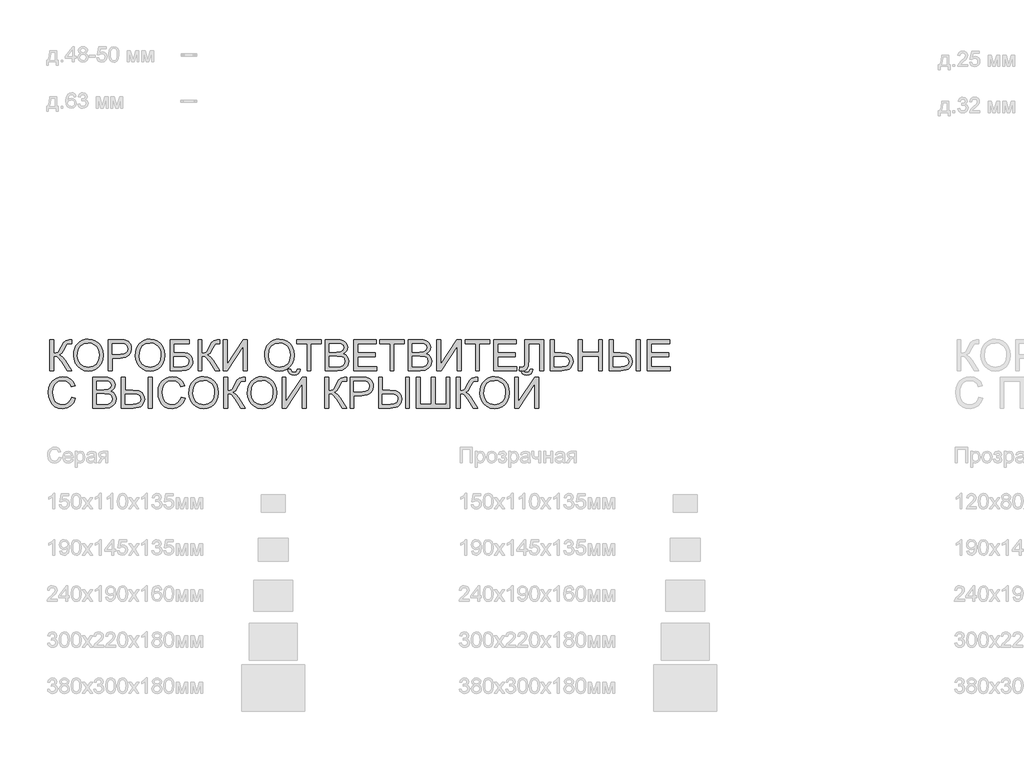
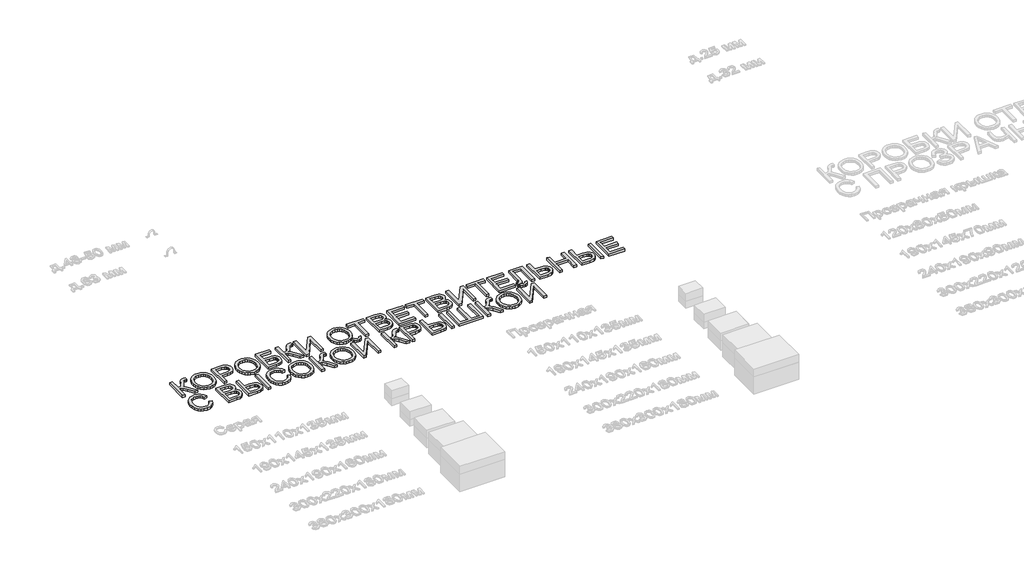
# One storey, part 20 of 98: 1 proxy.
"""IFC4 building model written with IfcOpenShell, lengths in millimetres."""

from ifc_helpers import new_model, si_unit, origin, origin_with_axes, place, context, project, spatial, polyline, outline, extrude, element, save

model = new_model("IFC4")

# Units and contexts
model_context = context("Model", 3, world=origin())
ifc_project = project(units=[si_unit("LENGTHUNIT", "METRE", prefix="MILLI")], contexts=[model_context])

# Site, building, storey
site = spatial("IfcSite", under=ifc_project)
building = spatial("IfcBuilding", under=site)
storey = spatial("IfcBuildingStorey", under=building, Name="Этаж 01", Elevation=0.0)

# Proxy
placement = place(None, origin())
element("IfcBuildingElementProxy", 1, Name="200", ObjectType="200", at=placement, inside=storey, context=model_context, shape_type="SweptSolid", body=[
    extrude(outline(polyline([(-25.4161836, -41236.6247283), (-0.3021061, -41236.6247283), (-0.3021061, -41324.5239997), (16.7001735, -41322.8623994), (27.7795529, -41317.8775983), (36.7374795, -41306.148294), (47.3754005, -41284.253184), (61.232289, -41256.171525), (76.9285874, -41242.2655856), (99.3693891, -41236.6247283), (115.8505025, -41236.9190339), (115.8505025, -41262.0331114), (110.3077471, -41261.8859586), (104.7649917, -41261.7388059), (93.262548, -41263.247122), (85.1446187, -41267.7720706), (70.2331351, -41293.6219121), (52.452172, -41325.1126109), (35.1126673, -41335.5114086), (54.5000485, -41346.8666995), (73.6176495, -41370.5337746), (115.8505025, -41437.5373486), (86.7142485, -41437.5373486), (51.0051695, -41380.9325723), (25.8665665, -41351.3793853), (14.2598896, -41345.3645147), (-0.3021061, -41343.3595578), (-0.3021061, -41437.5373486), (-25.4161836, -41437.5373486), (-25.4161836, -41236.6247283)])), origin_with_axes(), (0.0, 0.0, 1.0), 20.0),
    extrude(outline(polyline([(128.4075413, -41339.7297888), (130.0814044, -41316.1638814), (135.1029936, -41295.3019065), (143.472309, -41277.1438644), (155.1893505, -41261.6897549), (169.5520768, -41249.3503797), (185.8584462, -41240.5365402), (204.1084588, -41235.2482365), (224.3021147, -41233.4854686), (250.6547283, -41236.7964066), (274.2850151, -41246.7292204), (293.9053882, -41262.5849344), (308.2282605, -41283.6645728), (316.983852, -41308.9503286), (319.9023825, -41337.424395), (316.8305679, -41366.2786061), (307.6151239, -41391.9199812), (292.764954, -41413.0364077), (272.7889617, -41428.3157733), (249.3610099, -41437.5863995), (224.1549619, -41440.6766083), (197.3976781, -41437.2614371), (173.6325012, -41427.0159236), (154.0611791, -41410.865904), (139.8854595, -41389.7372147), (131.2770209, -41365.4263462), (128.4075413, -41339.7297888)]), holes=[polyline([(153.5216188, -41339.9750435), (158.5432081, -41371.4044286), (173.6079758, -41395.3535465), (196.2511126, -41410.5102847), (224.0078091, -41415.5625308), (252.1691758, -41410.4612338), (274.8491008, -41395.1573428), (283.5725026, -41383.8848253), (289.8035039, -41370.4724609), (294.788305, -41337.2281913), (292.6545894, -41314.995856), (286.2534427, -41295.7801531), (275.7504117, -41280.0654606), (261.3110434, -41268.3361563), (243.8918309, -41261.0336987), (224.4492675, -41258.5995462), (197.4344663, -41263.2900416), (174.4663671, -41277.3615279), (165.3030397, -41288.3106158), (158.7578059, -41302.3958977), (153.5216188, -41339.9750435)])]), origin_with_axes(), (0.0, 0.0, 1.0), 20.0),
    extrude(outline(polyline([(354.4342391, -41437.5373486), (354.4342391, -41236.6247283), (428.893555, -41236.6247283), (458.9127258, -41238.5377147), (483.3155648, -41247.9309683), (492.1876522, -41256.2573641), (499.1344906, -41267.3551376), (503.6226509, -41280.4456053), (505.1187044, -41294.7500836), (501.0781338, -41318.4294213), (488.956422, -41338.160159), (479.2489359, -41345.9286004), (466.2887598, -41351.4774872), (430.6103376, -41355.9165966), (379.5483167, -41355.9165966), (379.5483167, -41437.5373486), (354.4342391, -41437.5373486)]), holes=[polyline([(379.5483167, -41330.8025191), (432.0818656, -41330.8025191), (454.350989, -41328.4971252), (469.0662688, -41321.5809437), (477.2700373, -41310.4831702), (480.0046268, -41295.6330003), (478.3920774, -41284.3512858), (473.5544292, -41274.8354049), (466.092556, -41267.6739687), (456.6073319, -41263.4555885), (431.4932544, -41261.7388059), (379.5483167, -41261.7388059), (379.5483167, -41330.8025191)])]), origin_with_axes(), (0.0, 0.0, 1.0), 20.0),
    extrude(outline(polyline([(530.2327819, -41339.7297888), (531.906645, -41316.1638814), (536.9282342, -41295.3019065), (545.2975496, -41277.1438644), (557.0145911, -41261.6897549), (571.3773174, -41249.3503797), (587.6836868, -41240.5365402), (605.9336994, -41235.2482365), (626.1273553, -41233.4854686), (652.4799689, -41236.7964066), (676.1102557, -41246.7292204), (695.7306288, -41262.5849344), (710.0535011, -41283.6645728), (718.8090926, -41308.9503286), (721.7276231, -41337.424395), (718.6558085, -41366.2786061), (709.4403645, -41391.9199812), (694.5901946, -41413.0364077), (674.6142023, -41428.3157733), (651.1862505, -41437.5863995), (625.9802025, -41440.6766083), (599.2229187, -41437.2614371), (575.4577418, -41427.0159236), (555.8864197, -41410.865904), (541.7107001, -41389.7372147), (533.1022615, -41365.4263462), (530.2327819, -41339.7297888)]), holes=[polyline([(555.3468594, -41339.9750435), (560.3684487, -41371.4044286), (575.4332164, -41395.3535465), (598.0763532, -41410.5102847), (625.8330497, -41415.5625308), (653.9944164, -41410.4612338), (676.6743414, -41395.1573428), (685.3977432, -41383.8848253), (691.6287445, -41370.4724609), (696.6135456, -41337.2281913), (694.47983, -41314.995856), (688.0786833, -41295.7801531), (677.5756523, -41280.0654606), (663.136284, -41268.3361563), (645.7170715, -41261.0336987), (626.2745081, -41258.5995462), (599.2597069, -41263.2900416), (576.2916077, -41277.3615279), (567.1282803, -41288.3106158), (560.5830465, -41302.3958977), (555.3468594, -41339.9750435)])]), origin_with_axes(), (0.0, 0.0, 1.0), 20.0),
    extrude(outline(polyline([(756.2594797, -41236.6247283), (881.8298674, -41236.6247283), (881.8298674, -41261.7388059), (781.3735573, -41261.7388059), (781.3735573, -41321.38474), (828.4134017, -41321.38474), (851.7984339, -41322.6600643), (869.8614398, -41326.486037), (883.7305911, -41333.8559396), (894.534059, -41345.7630535), (901.4870287, -41361.09147), (903.8046853, -41378.7252803), (902.1553476, -41393.5325306), (897.2073348, -41407.3464995), (888.9851722, -41419.4436858), (877.5133853, -41429.1005882), (859.8182614, -41435.4281585), (832.9260875, -41437.5373486), (756.2594797, -41437.5373486), (756.2594797, -41236.6247283)]), holes=[polyline([(781.3735573, -41412.4232711), (835.1824304, -41412.4232711), (854.2019296, -41410.3508692), (867.8013007, -41404.1336635), (875.968281, -41393.7716539), (878.6906077, -41379.2648406), (877.1332406, -41368.4613727), (872.4611393, -41359.5954166), (865.0115289, -41353.0225916), (855.1216346, -41349.098517), (817.27884, -41346.4988175), (781.3735573, -41346.4988175), (781.3735573, -41412.4232711)])]), origin_with_axes(), (0.0, 0.0, 1.0), 20.0),
    extrude(outline(polyline([(938.3365419, -41236.6247283), (963.4506194, -41236.6247283), (963.4506194, -41324.5239997), (980.452899, -41322.8623994), (991.5322784, -41317.8775983), (1000.490205, -41306.148294), (1011.128126, -41284.253184), (1024.9850145, -41256.171525), (1040.6813129, -41242.2655856), (1063.1221146, -41236.6247283), (1079.603228, -41236.9190339), (1079.603228, -41262.0331114), (1074.0604726, -41261.8859586), (1068.5177172, -41261.7388059), (1057.0152735, -41263.247122), (1048.8973442, -41267.7720706), (1033.9858606, -41293.6219121), (1016.2048975, -41325.1126109), (998.8653928, -41335.5114086), (1018.252774, -41346.8666995), (1037.370375, -41370.5337746), (1079.603228, -41437.5373486), (1050.466974, -41437.5373486), (1014.757895, -41380.9325723), (989.619292, -41351.3793853), (978.0126151, -41345.3645147), (963.4506194, -41343.3595578), (963.4506194, -41437.5373486), (938.3365419, -41437.5373486), (938.3365419, -41236.6247283)])), origin_with_axes(), (0.0, 0.0, 1.0), 20.0),
    extrude(outline(polyline([(1101.5780459, -41236.6247283), (1126.6921234, -41236.6247283), (1126.6921234, -41395.745954), (1231.8573231, -41236.6247283), (1258.5410305, -41236.6247283), (1258.5410305, -41437.5373486), (1233.4269529, -41437.5373486), (1233.4269529, -41278.8575814), (1128.5070079, -41437.5373486), (1101.5780459, -41437.5373486), (1101.5780459, -41236.6247283)])), origin_with_axes(), (0.0, 0.0, 1.0), 20.0),
    extrude(outline(polyline([(1371.5543794, -41339.7297888), (1373.2282425, -41316.1638814), (1378.2498317, -41295.3019065), (1386.6191471, -41277.1438644), (1398.3361886, -41261.6897549), (1412.6989149, -41249.3503797), (1429.0052843, -41240.5365402), (1447.255297, -41235.2482365), (1467.4489528, -41233.4854686), (1493.8015664, -41236.7964066), (1517.4318532, -41246.7292204), (1537.0522263, -41262.5849344), (1551.3750986, -41283.6645728), (1560.1306901, -41308.9503286), (1563.0492206, -41337.424395), (1559.977406, -41366.2786061), (1550.761962, -41391.9199812), (1535.9117921, -41413.0364077), (1515.9357998, -41428.3157733), (1492.507848, -41437.5863995), (1467.3018, -41440.6766083), (1440.5445162, -41437.2614371), (1416.7793393, -41427.0159236), (1397.2080172, -41410.865904), (1383.0322976, -41389.7372147), (1374.423859, -41365.4263462), (1371.5543794, -41339.7297888)]), holes=[polyline([(1396.6684569, -41339.9750435), (1401.6900462, -41371.4044286), (1416.7548139, -41395.3535465), (1439.3979507, -41410.5102847), (1467.1546472, -41415.5625308), (1495.3160139, -41410.4612338), (1517.9959389, -41395.1573428), (1526.7193408, -41383.8848253), (1532.950342, -41370.4724609), (1537.9351431, -41337.2281913), (1535.8014275, -41314.995856), (1529.4002808, -41295.7801531), (1518.8972498, -41280.0654606), (1504.4578815, -41268.3361563), (1487.038669, -41261.0336987), (1467.5961056, -41258.5995462), (1440.5813044, -41263.2900416), (1417.6132052, -41277.3615279), (1408.4498778, -41288.3106158), (1401.904644, -41302.3958977), (1396.6684569, -41339.9750435)])]), origin_with_axes(), (0.0, 0.0, 1.0), 20.0),
    extrude(outline(polyline([(1647.8092323, -41437.5373486), (1647.8092323, -41261.7388059), (1581.8847788, -41261.7388059), (1581.8847788, -41236.6247283), (1738.8477634, -41236.6247283), (1738.8477634, -41261.7388059), (1672.9233098, -41261.7388059), (1672.9233098, -41437.5373486), (1647.8092323, -41437.5373486)])), origin_with_axes(), (0.0, 0.0, 1.0), 20.0),
    extrude(outline(polyline([(1767.1011006, -41437.5373486), (1767.1011006, -41236.6247283), (1843.7677084, -41236.6247283), (1864.8534781, -41238.1023877), (1881.3161974, -41242.5353657), (1893.9345498, -41250.034027), (1903.487219, -41260.7087363), (1909.5020896, -41273.265775), (1911.5070464, -41286.411425), (1909.8209206, -41298.5086113), (1904.7625432, -41309.8822963), (1896.2951259, -41319.8335043), (1884.3818807, -41327.6632594), (1898.6127825, -41335.0944757), (1909.1280762, -41346.4007157), (1915.6211934, -41360.8339526), (1917.7855658, -41377.6461598), (1911.8749284, -41404.6486982), (1897.233225, -41423.8766639), (1875.3810345, -41434.0792579), (1843.1790972, -41437.5373486), (1767.1011006, -41437.5373486)]), holes=[polyline([(1792.2151781, -41412.4232711), (1843.7186575, -41412.4232711), (1862.3580119, -41411.4422524), (1878.1278868, -41405.9730734), (1888.5757354, -41394.8139862), (1892.6714883, -41377.8914145), (1887.8644969, -41358.3691433), (1881.5675834, -41351.3119403), (1872.2908258, -41346.7195467), (1841.2661108, -41343.3595578), (1792.2151781, -41343.3595578), (1792.2151781, -41412.4232711)]), polyline([(1792.2151781, -41318.2454803), (1838.0778002, -41318.2454803), (1864.8596095, -41316.0872393), (1880.9728408, -41306.7920875), (1886.3929689, -41290.4336015), (1881.3407228, -41274.05059), (1866.8706977, -41264.3630308), (1834.595184, -41261.7388059), (1792.2151781, -41261.7388059), (1792.2151781, -41318.2454803)])]), origin_with_axes(), (0.0, 0.0, 1.0), 20.0),
    extrude(outline(polyline([(1952.3174224, -41437.5373486), (1952.3174224, -41236.6247283), (2096.7233683, -41236.6247283), (2096.7233683, -41261.7388059), (1977.4315, -41261.7388059), (1977.4315, -41321.38474), (2090.4448489, -41321.38474), (2090.4448489, -41346.4988175), (1977.4315, -41346.4988175), (1977.4315, -41412.4232711), (2099.862628, -41412.4232711), (2099.862628, -41437.5373486), (1952.3174224, -41437.5373486)])), origin_with_axes(), (0.0, 0.0, 1.0), 20.0),
    extrude(outline(polyline([(2187.7618994, -41437.5373486), (2187.7618994, -41261.7388059), (2121.8374458, -41261.7388059), (2121.8374458, -41236.6247283), (2278.8004304, -41236.6247283), (2278.8004304, -41261.7388059), (2212.8759769, -41261.7388059), (2212.8759769, -41437.5373486), (2187.7618994, -41437.5373486)])), origin_with_axes(), (0.0, 0.0, 1.0), 20.0),
    extrude(outline(polyline([(2307.0537677, -41437.5373486), (2307.0537677, -41236.6247283), (2383.7203755, -41236.6247283), (2404.8061451, -41238.1023877), (2421.2688644, -41242.5353657), (2433.8872169, -41250.034027), (2443.439886, -41260.7087363), (2449.4547566, -41273.265775), (2451.4597135, -41286.411425), (2449.7735877, -41298.5086113), (2444.7152103, -41309.8822963), (2436.247793, -41319.8335043), (2424.3345477, -41327.6632594), (2438.5654496, -41335.0944757), (2449.0807433, -41346.4007157), (2455.5738605, -41360.8339526), (2457.7382329, -41377.6461598), (2451.8275955, -41404.6486982), (2437.1858921, -41423.8766639), (2415.3337016, -41434.0792579), (2383.1317643, -41437.5373486), (2307.0537677, -41437.5373486)]), holes=[polyline([(2332.1678452, -41412.4232711), (2383.6713245, -41412.4232711), (2402.3106789, -41411.4422524), (2418.0805538, -41405.9730734), (2428.5284025, -41394.8139862), (2432.6241553, -41377.8914145), (2427.8171639, -41358.3691433), (2421.5202505, -41351.3119403), (2412.2434928, -41346.7195467), (2381.2187779, -41343.3595578), (2332.1678452, -41343.3595578), (2332.1678452, -41412.4232711)]), polyline([(2332.1678452, -41318.2454803), (2378.0304673, -41318.2454803), (2404.8122765, -41316.0872393), (2420.9255079, -41306.7920875), (2426.345636, -41290.4336015), (2421.2933899, -41274.05059), (2406.8233648, -41264.3630308), (2374.547851, -41261.7388059), (2332.1678452, -41261.7388059), (2332.1678452, -41318.2454803)])]), origin_with_axes(), (0.0, 0.0, 1.0), 20.0),
    extrude(outline(polyline([(2492.2700895, -41236.6247283), (2517.384167, -41236.6247283), (2517.384167, -41395.745954), (2622.5493667, -41236.6247283), (2649.2330741, -41236.6247283), (2649.2330741, -41437.5373486), (2624.1189966, -41437.5373486), (2624.1189966, -41278.8575814), (2519.1990515, -41437.5373486), (2492.2700895, -41437.5373486), (2492.2700895, -41236.6247283)])), origin_with_axes(), (0.0, 0.0, 1.0), 20.0),
    extrude(outline(polyline([(2743.4108649, -41437.5373486), (2743.4108649, -41261.7388059), (2677.4864113, -41261.7388059), (2677.4864113, -41236.6247283), (2834.4493959, -41236.6247283), (2834.4493959, -41261.7388059), (2768.5249424, -41261.7388059), (2768.5249424, -41437.5373486), (2743.4108649, -41437.5373486)])), origin_with_axes(), (0.0, 0.0, 1.0), 20.0),
    extrude(outline(polyline([(2862.7027332, -41437.5373486), (2862.7027332, -41236.6247283), (3007.108679, -41236.6247283), (3007.108679, -41261.7388059), (2887.8168107, -41261.7388059), (2887.8168107, -41321.38474), (3000.8301596, -41321.38474), (3000.8301596, -41346.4988175), (2887.8168107, -41346.4988175), (2887.8168107, -41412.4232711), (3010.2479387, -41412.4232711), (3010.2479387, -41437.5373486), (2862.7027332, -41437.5373486)])), origin_with_axes(), (0.0, 0.0, 1.0), 20.0),
    extrude(outline(polyline([(3063.6153535, -41236.6247283), (3186.0464815, -41236.6247283), (3186.0464815, -41437.5373486), (3160.9324039, -41437.5373486), (3160.9324039, -41261.7388059), (3088.729431, -41261.7388059), (3088.729431, -41364.2552552), (3085.8109005, -41409.9952499), (3081.2920833, -41422.9201707), (3073.5726928, -41432.6077299), (3063.0022168, -41438.6593887), (3049.9301433, -41440.6766083), (3029.0834969, -41437.5373486), (3032.2227566, -41412.4232711), (3044.2402351, -41415.5625308), (3052.7321778, -41413.876405), (3058.7838366, -41408.8180275), (3062.4074743, -41397.5056562), (3063.6153535, -41377.0575486), (3063.6153535, -41236.6247283)])), origin_with_axes(), (0.0, 0.0, 1.0), 20.0),
    extrude(outline(polyline([(3229.9961172, -41236.6247283), (3255.1101947, -41236.6247283), (3255.1101947, -41321.38474), (3302.1500391, -41321.38474), (3330.5321351, -41323.3529087), (3349.8520712, -41329.2574147), (3362.5562628, -41338.5525664), (3371.091125, -41350.6926723), (3375.9287733, -41364.4575903), (3377.5413227, -41378.6271785), (3373.666299, -41400.6755727), (3362.041228, -41419.8299619), (3352.6234489, -41427.5769436), (3339.8702064, -41433.1105019), (3304.3573311, -41437.5373486), (3229.9961172, -41437.5373486), (3229.9961172, -41236.6247283)]), holes=[polyline([(3255.1101947, -41412.4232711), (3304.3082802, -41412.4232711), (3329.0544757, -41409.9400676), (3343.3528226, -41402.4904572), (3350.1586395, -41391.5337051), (3352.4272452, -41378.5290766), (3350.7840389, -41367.9953888), (3345.8544202, -41359.1539582), (3338.1840806, -41352.5750018), (3328.3187117, -41348.8287368), (3291.1626302, -41346.4988175), (3255.1101947, -41346.4988175), (3255.1101947, -41412.4232711)])]), origin_with_axes(), (0.0, 0.0, 1.0), 20.0),
    extrude(outline(polyline([(3412.0731793, -41437.5373486), (3412.0731793, -41236.6247283), (3437.1872568, -41236.6247283), (3437.1872568, -41318.2454803), (3543.9220864, -41318.2454803), (3543.9220864, -41236.6247283), (3569.0361639, -41236.6247283), (3569.0361639, -41437.5373486), (3543.9220864, -41437.5373486), (3543.9220864, -41343.3595578), (3437.1872568, -41343.3595578), (3437.1872568, -41437.5373486), (3412.0731793, -41437.5373486)])), origin_with_axes(), (0.0, 0.0, 1.0), 20.0),
    extrude(outline(polyline([(3788.7843424, -41236.6247283), (3813.8984199, -41236.6247283), (3813.8984199, -41437.5373486), (3788.7843424, -41437.5373486), (3788.7843424, -41236.6247283)])), origin_with_axes(), (0.0, 0.0, 1.0), 20.0),
    extrude(outline(polyline([(3612.9857996, -41236.6247283), (3638.0998771, -41236.6247283), (3638.0998771, -41321.38474), (3686.3659949, -41321.38474), (3725.6435293, -41325.7747985), (3739.2030465, -41331.2623716), (3748.7097304, -41338.9449739), (3759.9301312, -41357.6824302), (3763.6702648, -41378.7743313), (3759.7155334, -41400.8043314), (3747.851339, -41419.9035383), (3738.2450204, -41427.6183303), (3725.2449904, -41433.128896), (3689.0637962, -41437.5373486), (3612.9857996, -41437.5373486), (3612.9857996, -41236.6247283)]), holes=[polyline([(3638.0998771, -41412.4232711), (3688.8185415, -41412.4232711), (3711.3758392, -41410.4305769), (3726.759438, -41404.4524945), (3735.607, -41394.0843536), (3738.5561873, -41378.921484), (3736.7719596, -41367.9708633), (3731.4192766, -41358.9577544), (3723.2400336, -41352.3726667), (3712.9761259, -41348.7061095), (3675.2314332, -41346.4988175), (3638.0998771, -41346.4988175), (3638.0998771, -41412.4232711)])]), origin_with_axes(), (0.0, 0.0, 1.0), 20.0),
    extrude(outline(polyline([(3860.9873153, -41437.5373486), (3860.9873153, -41236.6247283), (4005.3932611, -41236.6247283), (4005.3932611, -41261.7388059), (3886.1013928, -41261.7388059), (3886.1013928, -41321.38474), (3999.1147417, -41321.38474), (3999.1147417, -41346.4988175), (3886.1013928, -41346.4988175), (3886.1013928, -41412.4232711), (4008.5325208, -41412.4232711), (4008.5325208, -41437.5373486), (3860.9873153, -41437.5373486)])), origin_with_axes(), (0.0, 0.0, 1.0), 20.0),
    extrude(outline(polyline([(115.8505025, -41610.0688263), (140.9645801, -41616.5435494), (129.3762972, -41645.8085621), (111.1906639, -41667.1886374), (87.3028597, -41680.2668424), (58.6080641, -41684.626244), (29.4779414, -41681.3275688), (6.3442953, -41671.4315431), (-11.3876169, -41655.2815235), (-24.3125376, -41633.2208665), (-32.2036064, -41607.2851859), (-34.8339627, -41579.5100952), (-31.8602499, -41550.2144257), (-22.9391115, -41524.9164072), (-8.5365314, -41504.4192487), (10.8815066, -41489.5261592), (33.9109195, -41480.457868), (59.1476243, -41477.4351043), (86.6835917, -41481.3469162), (109.4493558, -41493.0823518), (126.7336782, -41511.91791), (137.8253204, -41537.1300894), (112.7112428, -41543.1143032), (104.0047023, -41524.7999112), (92.1098511, -41512.2367411), (76.8795365, -41504.9710717), (58.1666057, -41502.5491818), (36.596458, -41505.2347204), (18.8768086, -41513.2913361), (5.4307217, -41525.8729003), (-3.3187384, -41542.1332845), (-8.1195985, -41560.5151216), (-9.7198852, -41579.4610443), (-7.8252929, -41602.6621355), (-2.1415161, -41622.7239669), (7.5460431, -41638.8801179), (21.4519826, -41650.3641675), (38.1231683, -41657.2251667), (56.1064665, -41659.5121665), (77.0696089, -41656.3974322), (94.5378723, -41647.0532296), (107.7264418, -41631.5776603), (115.8505025, -41610.0688263)])), origin_with_axes(), (0.0, 0.0, 1.0), 20.0),
    extrude(outline(polyline([(253.977929, -41681.4869843), (253.977929, -41480.574364), (330.6445368, -41480.574364), (351.7303065, -41482.0520234), (368.1930257, -41486.4850014), (380.8113782, -41493.9836627), (390.3640473, -41504.658372), (396.3789179, -41517.2154107), (398.3838748, -41530.3610607), (396.697749, -41542.458247), (391.6393716, -41553.831932), (383.1719543, -41563.7831399), (371.258709, -41571.6128951), (385.4896109, -41579.0441114), (396.0049046, -41590.3503514), (402.4980218, -41604.7835883), (404.6623942, -41621.5957955), (398.7517568, -41648.5983339), (384.1100534, -41667.8262995), (362.2578629, -41678.0288935), (330.0559256, -41681.4869843), (253.977929, -41681.4869843)]), holes=[polyline([(279.0920065, -41562.195116), (324.9546286, -41562.195116), (351.7364378, -41560.036875), (367.8496692, -41550.7417232), (373.2697973, -41534.3832372), (368.2175512, -41518.0002256), (353.7475261, -41508.3126664), (321.4720124, -41505.6884415), (279.0920065, -41505.6884415), (279.0920065, -41562.195116)]), polyline([(279.0920065, -41656.3729068), (330.5954858, -41656.3729068), (349.2348403, -41655.3918881), (365.0047151, -41649.9227091), (375.4525638, -41638.7636219), (379.5483167, -41621.8410502), (374.7413253, -41602.3187789), (368.4444118, -41595.261576), (359.1676541, -41590.6691824), (328.1429392, -41587.3091935), (279.0920065, -41587.3091935), (279.0920065, -41656.3729068)])]), origin_with_axes(), (0.0, 0.0, 1.0), 20.0),
    extrude(outline(polyline([(614.9927936, -41480.574364), (640.1068711, -41480.574364), (640.1068711, -41681.4869843), (614.9927936, -41681.4869843), (614.9927936, -41480.574364)])), origin_with_axes(), (0.0, 0.0, 1.0), 20.0),
    extrude(outline(polyline([(439.1942508, -41480.574364), (464.3083284, -41480.574364), (464.3083284, -41565.3343757), (512.5744461, -41565.3343757), (551.8519805, -41569.7244342), (565.4114977, -41575.2120073), (574.9181816, -41582.8946096), (586.1385824, -41601.6320659), (589.878716, -41622.7239669), (585.9239846, -41644.7539671), (574.0597902, -41663.853174), (564.4534717, -41671.567966), (551.4534416, -41677.0785317), (515.2722474, -41681.4869843), (439.1942508, -41681.4869843), (439.1942508, -41480.574364)]), holes=[polyline([(464.3083284, -41656.3729068), (515.0269928, -41656.3729068), (537.5842904, -41654.3802126), (552.9678892, -41648.4021302), (561.8154512, -41638.0339893), (564.7646385, -41622.8711197), (562.9804108, -41611.920499), (557.6277278, -41602.9073901), (549.4484848, -41596.3223024), (539.1845771, -41592.6557452), (501.4398844, -41590.4484532), (464.3083284, -41590.4484532), (464.3083284, -41656.3729068)])]), origin_with_axes(), (0.0, 0.0, 1.0), 20.0),
    extrude(outline(polyline([(828.4624526, -41610.0688263), (853.5765302, -41616.5435494), (841.9882473, -41645.8085621), (823.802614, -41667.1886374), (799.9148098, -41680.2668424), (771.2200142, -41684.626244), (742.0898915, -41681.3275688), (718.9562454, -41671.4315431), (701.2243332, -41655.2815235), (688.2994125, -41633.2208665), (680.4083437, -41607.2851859), (677.7779874, -41579.5100952), (680.7517002, -41550.2144257), (689.6728386, -41524.9164072), (704.0754187, -41504.4192487), (723.4934567, -41489.5261592), (746.5228696, -41480.457868), (771.7595745, -41477.4351043), (799.2955418, -41481.3469162), (822.0613059, -41493.0823518), (839.3456283, -41511.91791), (850.4372705, -41537.1300894), (825.323193, -41543.1143032), (816.6166524, -41524.7999112), (804.7218012, -41512.2367411), (789.4914866, -41504.9710717), (770.7785558, -41502.5491818), (749.2084082, -41505.2347204), (731.4887587, -41513.2913361), (718.0426718, -41525.8729003), (709.2932117, -41542.1332845), (704.4923516, -41560.5151216), (702.892065, -41579.4610443), (704.7866572, -41602.6621355), (710.4704341, -41622.7239669), (720.1579933, -41638.8801179), (734.0639327, -41650.3641675), (750.7351184, -41657.2251667), (768.7184166, -41659.5121665), (789.681559, -41656.3974322), (807.1498224, -41647.0532296), (820.3383919, -41631.5776603), (828.4624526, -41610.0688263)])), origin_with_axes(), (0.0, 0.0, 1.0), 20.0),
    extrude(outline(polyline([(878.6906077, -41583.6794245), (880.3644708, -41560.113517), (885.38606, -41539.2515422), (893.7553754, -41521.0935001), (905.472417, -41505.6393906), (919.8351432, -41493.3000154), (936.1415126, -41484.4861759), (954.3915253, -41479.1978722), (974.5851811, -41477.4351043), (1000.9377947, -41480.7460423), (1024.5680815, -41490.6788561), (1044.1884546, -41506.5345701), (1058.511327, -41527.6142085), (1067.2669184, -41552.8999643), (1070.1854489, -41581.3740307), (1067.1136343, -41610.2282418), (1057.8981903, -41635.8696169), (1043.0480204, -41656.9860434), (1023.0720281, -41672.265409), (999.6440764, -41681.5360352), (974.4380283, -41684.626244), (947.6807446, -41681.2110728), (923.9155677, -41670.9655592), (904.3442455, -41654.8155397), (890.168526, -41633.6868504), (881.5600873, -41609.3759819), (878.6906077, -41583.6794245)]), holes=[polyline([(903.8046853, -41583.9246792), (908.8262745, -41615.3540643), (923.8910422, -41639.3031822), (946.534179, -41654.4599204), (974.2908755, -41659.5121665), (1002.4522423, -41654.4108695), (1025.1321673, -41639.1069785), (1033.8555691, -41627.834461), (1040.0865704, -41614.4220966), (1045.0713714, -41581.177827), (1042.9376558, -41558.9454917), (1036.5365091, -41539.7297888), (1026.0334782, -41524.0150963), (1011.5941098, -41512.285792), (994.1748974, -41504.9833344), (974.7323339, -41502.5491818), (947.7175328, -41507.2396773), (924.7494335, -41521.3111636), (915.5861062, -41532.2602515), (909.0408723, -41546.3455334), (903.8046853, -41583.9246792)])]), origin_with_axes(), (0.0, 0.0, 1.0), 20.0),
    extrude(outline(polyline([(1104.7173056, -41480.574364), (1129.8313831, -41480.574364), (1129.8313831, -41568.4736354), (1146.8336626, -41566.812035), (1157.9130421, -41561.827234), (1166.8709686, -41550.0979297), (1177.5088897, -41528.2028196), (1191.3657782, -41500.1211607), (1207.0620766, -41486.2152213), (1229.5028783, -41480.574364), (1245.9839917, -41480.8686696), (1245.9839917, -41505.9827471), (1240.4412363, -41505.8355943), (1234.8984809, -41505.6884415), (1223.3960372, -41507.1967577), (1215.2781078, -41511.7217063), (1200.3666243, -41537.5715478), (1182.5856612, -41569.0622466), (1165.2461565, -41579.4610443), (1184.6335376, -41590.8163352), (1203.7511387, -41614.4834102), (1245.9839917, -41681.4869843), (1216.8477377, -41681.4869843), (1181.1386587, -41624.882208), (1156.0000557, -41595.329021), (1144.3933787, -41589.3141504), (1129.8313831, -41587.3091935), (1129.8313831, -41681.4869843), (1104.7173056, -41681.4869843), (1104.7173056, -41480.574364)])), origin_with_axes(), (0.0, 0.0, 1.0), 20.0),
    extrude(outline(polyline([(1258.5410305, -41583.6794245), (1260.2148936, -41560.113517), (1265.2364828, -41539.2515422), (1273.6057982, -41521.0935001), (1285.3228397, -41505.6393906), (1299.685566, -41493.3000154), (1315.9919354, -41484.4861759), (1334.241948, -41479.1978722), (1354.4356039, -41477.4351043), (1380.7882175, -41480.7460423), (1404.4185043, -41490.6788561), (1424.0388774, -41506.5345701), (1438.3617497, -41527.6142085), (1447.1173412, -41552.8999643), (1450.0358717, -41581.3740307), (1446.964057, -41610.2282418), (1437.7486131, -41635.8696169), (1422.8984432, -41656.9860434), (1402.9224508, -41672.265409), (1379.4944991, -41681.5360352), (1354.2884511, -41684.626244), (1327.5311673, -41681.2110728), (1303.7659904, -41670.9655592), (1284.1946683, -41654.8155397), (1270.0189487, -41633.6868504), (1261.41051, -41609.3759819), (1258.5410305, -41583.6794245)]), holes=[polyline([(1283.655108, -41583.9246792), (1288.6766972, -41615.3540643), (1303.7414649, -41639.3031822), (1326.3846018, -41654.4599204), (1354.1412983, -41659.5121665), (1382.302665, -41654.4108695), (1404.98259, -41639.1069785), (1413.7059918, -41627.834461), (1419.9369931, -41614.4220966), (1424.9217942, -41581.177827), (1422.7880786, -41558.9454917), (1416.3869319, -41539.7297888), (1405.8839009, -41524.0150963), (1391.4445326, -41512.285792), (1374.0253201, -41504.9833344), (1354.5827567, -41502.5491818), (1327.5679555, -41507.2396773), (1304.5998563, -41521.3111636), (1295.4365289, -41532.2602515), (1288.8912951, -41546.3455334), (1283.655108, -41583.9246792)])]), origin_with_axes(), (0.0, 0.0, 1.0), 20.0),
    extrude(outline(polyline([(1585.0240385, -41430.3462089), (1603.8595966, -41430.3462089), (1599.8067633, -41446.4287835), (1591.6704398, -41458.2807151), (1579.8185082, -41465.5831727), (1564.6188505, -41468.0173252), (1548.1254743, -41465.6015668), (1535.3354436, -41458.3542915), (1526.5921149, -41446.520754), (1522.2388446, -41430.3462089), (1541.0744028, -41430.3462089), (1548.1377371, -41444.497403), (1562.3625076, -41449.1817671), (1577.9607042, -41444.6445558), (1585.0240385, -41430.3462089)])), origin_with_axes(), (0.0, 0.0, 1.0), 20.0),
    extrude(outline(polyline([(1484.5677283, -41480.574364), (1509.6818058, -41480.574364), (1509.6818058, -41639.6955897), (1614.8470055, -41480.574364), (1641.5307129, -41480.574364), (1641.5307129, -41681.4869843), (1616.4166354, -41681.4869843), (1616.4166354, -41522.8072171), (1511.4966904, -41681.4869843), (1484.5677283, -41681.4869843), (1484.5677283, -41480.574364)])), origin_with_axes(), (0.0, 0.0, 1.0), 20.0),
    extrude(outline(polyline([(1763.9618409, -41480.574364), (1789.0759185, -41480.574364), (1789.0759185, -41568.4736354), (1806.078198, -41566.812035), (1817.1575774, -41561.827234), (1826.115504, -41550.0979297), (1836.753425, -41528.2028196), (1850.6103135, -41500.1211607), (1866.306612, -41486.2152213), (1888.7474137, -41480.574364), (1905.2285271, -41480.8686696), (1905.2285271, -41505.9827471), (1899.6857717, -41505.8355943), (1894.1430163, -41505.6884415), (1882.6405726, -41507.1967577), (1874.5226432, -41511.7217063), (1859.6111597, -41537.5715478), (1841.8301966, -41569.0622466), (1824.4906919, -41579.4610443), (1843.878073, -41590.8163352), (1862.995674, -41614.4834102), (1905.2285271, -41681.4869843), (1876.092273, -41681.4869843), (1840.383194, -41624.882208), (1815.244591, -41595.329021), (1803.6379141, -41589.3141504), (1789.0759185, -41587.3091935), (1789.0759185, -41681.4869843), (1763.9618409, -41681.4869843), (1763.9618409, -41480.574364)])), origin_with_axes(), (0.0, 0.0, 1.0), 20.0),
    extrude(outline(polyline([(1927.2033449, -41681.4869843), (1927.2033449, -41480.574364), (2001.6626607, -41480.574364), (2031.6818315, -41482.4873504), (2056.0846706, -41491.880604), (2064.956758, -41500.2069998), (2071.9035963, -41511.3047733), (2076.3917567, -41524.395241), (2077.8878101, -41538.6997192), (2073.8472396, -41562.379057), (2061.7255278, -41582.1097947), (2052.0180417, -41589.8782361), (2039.0578655, -41595.4271229), (2003.3794434, -41599.8662323), (1952.3174224, -41599.8662323), (1952.3174224, -41681.4869843), (1927.2033449, -41681.4869843)]), holes=[polyline([(1952.3174224, -41574.7521548), (2004.8509714, -41574.7521548), (2027.1200948, -41572.4467609), (2041.8353746, -41565.5305794), (2050.0391431, -41554.4328059), (2052.7737326, -41539.582636), (2051.1611832, -41528.3009215), (2046.3235349, -41518.7850406), (2038.8616618, -41511.6236044), (2029.3764377, -41507.4052242), (2004.2623602, -41505.6884415), (1952.3174224, -41505.6884415), (1952.3174224, -41574.7521548)])]), origin_with_axes(), (0.0, 0.0, 1.0), 20.0),
    extrude(outline(polyline([(2288.2182095, -41480.574364), (2313.332287, -41480.574364), (2313.332287, -41681.4869843), (2288.2182095, -41681.4869843), (2288.2182095, -41480.574364)])), origin_with_axes(), (0.0, 0.0, 1.0), 20.0),
    extrude(outline(polyline([(2112.4196667, -41480.574364), (2137.5337443, -41480.574364), (2137.5337443, -41565.3343757), (2185.7998621, -41565.3343757), (2225.0773964, -41569.7244342), (2238.6369136, -41575.2120073), (2248.1435975, -41582.8946096), (2259.3639984, -41601.6320659), (2263.104132, -41622.7239669), (2259.1494005, -41644.7539671), (2247.2852062, -41663.853174), (2237.6788876, -41671.567966), (2224.6788576, -41677.0785317), (2188.4976633, -41681.4869843), (2112.4196667, -41681.4869843), (2112.4196667, -41480.574364)]), holes=[polyline([(2137.5337443, -41656.3729068), (2188.2524087, -41656.3729068), (2210.8097064, -41654.3802126), (2226.1933051, -41648.4021302), (2235.0408671, -41638.0339893), (2237.9900544, -41622.8711197), (2236.2058268, -41611.920499), (2230.8531437, -41602.9073901), (2222.6739007, -41596.3223024), (2212.409993, -41592.6557452), (2174.6653003, -41590.4484532), (2137.5337443, -41590.4484532), (2137.5337443, -41656.3729068)])]), origin_with_axes(), (0.0, 0.0, 1.0), 20.0),
    extrude(outline(polyline([(2357.2819227, -41480.574364), (2382.3960003, -41480.574364), (2382.3960003, -41656.3729068), (2454.5989732, -41656.3729068), (2454.5989732, -41480.574364), (2479.7130507, -41480.574364), (2479.7130507, -41656.3729068), (2551.9160237, -41656.3729068), (2551.9160237, -41480.574364), (2577.0301012, -41480.574364), (2577.0301012, -41681.4869843), (2357.2819227, -41681.4869843), (2357.2819227, -41480.574364)])), origin_with_axes(), (0.0, 0.0, 1.0), 20.0),
    extrude(outline(polyline([(2617.8404772, -41480.574364), (2642.9545547, -41480.574364), (2642.9545547, -41568.4736354), (2659.9568343, -41566.812035), (2671.0362137, -41561.827234), (2679.9941403, -41550.0979297), (2690.6320613, -41528.2028196), (2704.4889498, -41500.1211607), (2720.1852482, -41486.2152213), (2742.62605, -41480.574364), (2759.1071633, -41480.8686696), (2759.1071633, -41505.9827471), (2753.5644079, -41505.8355943), (2748.0216525, -41505.6884415), (2736.5192088, -41507.1967577), (2728.4012795, -41511.7217063), (2713.4897959, -41537.5715478), (2695.7088328, -41569.0622466), (2678.3693281, -41579.4610443), (2697.7567093, -41590.8163352), (2716.8743103, -41614.4834102), (2759.1071633, -41681.4869843), (2729.9709093, -41681.4869843), (2694.2618303, -41624.882208), (2669.1232273, -41595.329021), (2657.5165504, -41589.3141504), (2642.9545547, -41587.3091935), (2642.9545547, -41681.4869843), (2617.8404772, -41681.4869843), (2617.8404772, -41480.574364)])), origin_with_axes(), (0.0, 0.0, 1.0), 20.0),
    extrude(outline(polyline([(2771.6642021, -41583.6794245), (2773.3380652, -41560.113517), (2778.3596544, -41539.2515422), (2786.7289698, -41521.0935001), (2798.4460114, -41505.6393906), (2812.8087376, -41493.3000154), (2829.115107, -41484.4861759), (2847.3651197, -41479.1978722), (2867.5587755, -41477.4351043), (2893.9113891, -41480.7460423), (2917.5416759, -41490.6788561), (2937.162049, -41506.5345701), (2951.4849213, -41527.6142085), (2960.2405128, -41552.8999643), (2963.1590433, -41581.3740307), (2960.0872287, -41610.2282418), (2950.8717847, -41635.8696169), (2936.0216148, -41656.9860434), (2916.0456225, -41672.265409), (2892.6176708, -41681.5360352), (2867.4116227, -41684.626244), (2840.6543389, -41681.2110728), (2816.889162, -41670.9655592), (2797.3178399, -41654.8155397), (2783.1421204, -41633.6868504), (2774.5336817, -41609.3759819), (2771.6642021, -41583.6794245)]), holes=[polyline([(2796.7782796, -41583.9246792), (2801.7998689, -41615.3540643), (2816.8646366, -41639.3031822), (2839.5077734, -41654.4599204), (2867.2644699, -41659.5121665), (2895.4258366, -41654.4108695), (2918.1057617, -41639.1069785), (2926.8291635, -41627.834461), (2933.0601648, -41614.4220966), (2938.0449658, -41581.177827), (2935.9112502, -41558.9454917), (2929.5101035, -41539.7297888), (2919.0070725, -41524.0150963), (2904.5677042, -41512.285792), (2887.1484918, -41504.9833344), (2867.7059283, -41502.5491818), (2840.6911271, -41507.2396773), (2817.7230279, -41521.3111636), (2808.5597005, -41532.2602515), (2802.0144667, -41546.3455334), (2796.7782796, -41583.9246792)])]), origin_with_axes(), (0.0, 0.0, 1.0), 20.0),
    extrude(outline(polyline([(3098.1472101, -41430.3462089), (3116.9827682, -41430.3462089), (3112.9299349, -41446.4287835), (3104.7936115, -41458.2807151), (3092.9416799, -41465.5831727), (3077.7420221, -41468.0173252), (3061.248646, -41465.6015668), (3048.4586153, -41458.3542915), (3039.7152865, -41446.520754), (3035.3620162, -41430.3462089), (3054.1975744, -41430.3462089), (3061.2609087, -41444.497403), (3075.4856792, -41449.1817671), (3091.0838758, -41444.6445558), (3098.1472101, -41430.3462089)])), origin_with_axes(), (0.0, 0.0, 1.0), 20.0),
    extrude(outline(polyline([(2997.6908999, -41480.574364), (3022.8049775, -41480.574364), (3022.8049775, -41639.6955897), (3127.9701772, -41480.574364), (3154.6538845, -41480.574364), (3154.6538845, -41681.4869843), (3129.539807, -41681.4869843), (3129.539807, -41522.8072171), (3024.619862, -41681.4869843), (2997.6908999, -41681.4869843), (2997.6908999, -41480.574364)])), origin_with_axes(), (0.0, 0.0, 1.0), 20.0),
])

save(model, "model.ifc")
